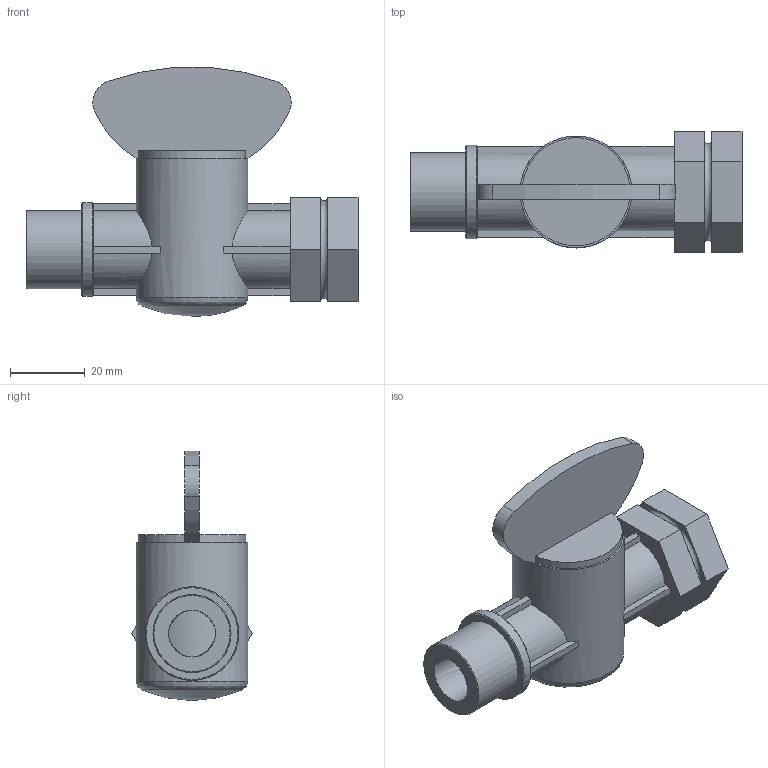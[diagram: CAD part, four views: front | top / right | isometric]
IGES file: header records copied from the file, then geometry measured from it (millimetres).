
Global section: file name: 03012055.ipt; native system: Autodesk Inventor 2015; preprocessor: unknown; author: KIM; date: 20170619.121238; units: millimetre
Bounding box: 89 x 32.33 x 66.81 mm (x, y, z)
Volume: 52328.4 mm3; surface area: 16449.5 mm2
Topology: 1 solids, 1 shells, 104 faces, 258 edges, 161 vertices
Faces by surface type: plane 75, cylinder 20, revolution 5, cone 3, sphere 1
Full cylindrical faces by diameter (mm): 20.955 x1, 25.146 x1, 30 x1
